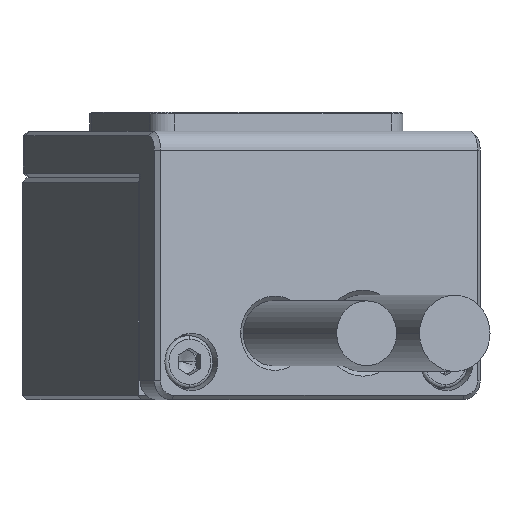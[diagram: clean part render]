
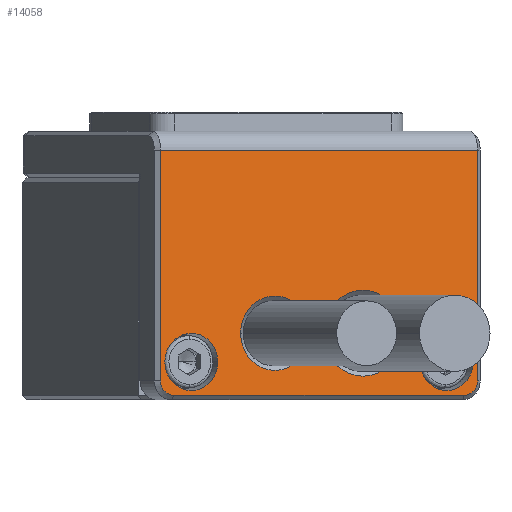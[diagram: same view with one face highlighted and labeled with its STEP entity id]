
A CAD part, front view. The second image highlights one B-rep face of the part: STEP entity #14058.
In plain terms, the highlighted planar face has unit normal (0.383, -0.924, 0).
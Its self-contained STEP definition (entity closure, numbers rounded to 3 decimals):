
#17 = DIRECTION ( 'NONE',  ( 0.924, 0.383, 0. ) ) ;
#50 = EDGE_CURVE ( 'NONE', #3986, #12272, #17562, .T. ) ;
#395 = CARTESIAN_POINT ( 'NONE',  ( 103.385, 10.441, 38.176 ) ) ;
#701 = DIRECTION ( 'NONE',  ( 0.924, 0.383, 0. ) ) ;
#782 = ORIENTED_EDGE ( 'NONE', *, *, #11749, .F. ) ;
#1046 = CARTESIAN_POINT ( 'NONE',  ( 88.975, 4.465, 41.176 ) ) ;
#1405 = LINE ( 'NONE', #5007, #18223 ) ;
#1423 = VERTEX_POINT ( 'NONE', #2273 ) ;
#1676 = CARTESIAN_POINT ( 'NONE',  ( 98.766, 8.525, 41.176 ) ) ;
#1719 = CARTESIAN_POINT ( 'NONE',  ( 79.368, 0.481, 38.176 ) ) ;
#1793 = AXIS2_PLACEMENT_3D ( 'NONE', #395, #11737, #13351 ) ;
#2011 = CARTESIAN_POINT ( 'NONE',  ( 106.618, 11.781, 36.176 ) ) ;
#2038 = ORIENTED_EDGE ( 'NONE', *, *, #10187, .F. ) ;
#2273 = CARTESIAN_POINT ( 'NONE',  ( 73.364, -2.008, 36.176 ) ) ;
#2369 = DIRECTION ( 'NONE',  ( 0.924, 0.383, 0. ) ) ;
#2451 = CARTESIAN_POINT ( 'NONE',  ( 106.618, 11.781, 60.376 ) ) ;
#2734 = DIRECTION ( 'NONE',  ( 0., 0., -1. ) ) ;
#2884 = CARTESIAN_POINT ( 'NONE',  ( 106.618, 11.781, 62.376 ) ) ;
#2940 = CARTESIAN_POINT ( 'NONE',  ( 76.597, -0.668, 38.176 ) ) ;
#2974 = AXIS2_PLACEMENT_3D ( 'NONE', #19975, #11799, #3706 ) ;
#3706 = DIRECTION ( 'NONE',  ( 0.924, 0.383, 0. ) ) ;
#3714 = CARTESIAN_POINT ( 'NONE',  ( 72.902, -2.2, 62.376 ) ) ;
#3880 = FACE_BOUND ( 'NONE', #12532, .T. ) ;
#3986 = VERTEX_POINT ( 'NONE', #14034 ) ;
#4069 = EDGE_CURVE ( 'NONE', #10000, #15515, #14457, .T. ) ;
#4198 = EDGE_CURVE ( 'NONE', #3986, #1423, #13678, .T. ) ;
#4199 = EDGE_CURVE ( 'NONE', #15515, #12068, #20064, .T. ) ;
#4459 = DIRECTION ( 'NONE',  ( -0.383, 0.924, 0. ) ) ;
#4501 = AXIS2_PLACEMENT_3D ( 'NONE', #9694, #12836, #21023 ) ;
#4657 = FACE_BOUND ( 'NONE', #12109, .T. ) ;
#4872 = ORIENTED_EDGE ( 'NONE', *, *, #10726, .F. ) ;
#4904 = ORIENTED_EDGE ( 'NONE', *, *, #8299, .F. ) ;
#5007 = CARTESIAN_POINT ( 'NONE',  ( 73.364, -2.008, 62.376 ) ) ;
#5009 = DIRECTION ( 'NONE',  ( -0.924, -0.383, 0. ) ) ;
#5023 = AXIS2_PLACEMENT_3D ( 'NONE', #3714, #13571, #18370 ) ;
#5819 = DIRECTION ( 'NONE',  ( -0.924, -0.383, 0. ) ) ;
#5883 = CARTESIAN_POINT ( 'NONE',  ( 72.902, -2.2, 60.376 ) ) ;
#6188 = FACE_BOUND ( 'NONE', #10829, .T. ) ;
#6265 = EDGE_CURVE ( 'NONE', #1423, #10000, #1405, .T. ) ;
#6535 = VERTEX_POINT ( 'NONE', #14041 ) ;
#6595 = AXIS2_PLACEMENT_3D ( 'NONE', #12121, #20327, #10596 ) ;
#6935 = CARTESIAN_POINT ( 'NONE',  ( 100.614, 9.292, 38.176 ) ) ;
#7243 = EDGE_CURVE ( 'NONE', #12006, #19253, #20472, .T. ) ;
#7406 = CIRCLE ( 'NONE', #4501, 3.9 ) ;
#7449 = CARTESIAN_POINT ( 'NONE',  ( 85.372, 2.971, 41.176 ) ) ;
#8141 = DIRECTION ( 'NONE',  ( 0.383, -0.924, 0. ) ) ;
#8176 = DIRECTION ( 'NONE',  ( 0.383, -0.924, 0. ) ) ;
#8299 = EDGE_CURVE ( 'NONE', #16517, #13621, #7406, .T. ) ;
#8560 = PLANE ( 'NONE',  #5023 ) ;
#8868 = DIRECTION ( 'NONE',  ( 0.383, -0.924, 0. ) ) ;
#9005 = VERTEX_POINT ( 'NONE', #6935 ) ;
#9150 = ORIENTED_EDGE ( 'NONE', *, *, #13456, .F. ) ;
#9258 = ORIENTED_EDGE ( 'NONE', *, *, #4069, .F. ) ;
#9647 = ORIENTED_EDGE ( 'NONE', *, *, #4199, .F. ) ;
#9694 = CARTESIAN_POINT ( 'NONE',  ( 85.372, 2.971, 41.176 ) ) ;
#10000 = VERTEX_POINT ( 'NONE', #14893 ) ;
#10019 = CARTESIAN_POINT ( 'NONE',  ( 90.453, 5.078, 41.176 ) ) ;
#10168 = VECTOR ( 'NONE', #2369, 1000. ) ;
#10187 = EDGE_CURVE ( 'NONE', #19253, #12006, #21045, .T. ) ;
#10411 = VECTOR ( 'NONE', #2734, 1000. ) ;
#10510 = FACE_BOUND ( 'NONE', #18511, .T. ) ;
#10596 = DIRECTION ( 'NONE',  ( 0.924, 0.383, 0. ) ) ;
#10726 = EDGE_CURVE ( 'NONE', #13621, #16517, #13895, .T. ) ;
#10759 = EDGE_CURVE ( 'NONE', #9005, #6535, #13143, .T. ) ;
#10829 = EDGE_LOOP ( 'NONE', ( #20023, #9150 ) ) ;
#11294 = AXIS2_PLACEMENT_3D ( 'NONE', #19012, #4459, #5009 ) ;
#11536 = DIRECTION ( 'NONE',  ( 0., 0., 1. ) ) ;
#11737 = DIRECTION ( 'NONE',  ( 0.383, -0.924, 0. ) ) ;
#11749 = EDGE_CURVE ( 'NONE', #12068, #12272, #15102, .T. ) ;
#11799 = DIRECTION ( 'NONE',  ( 0.383, -0.924, 0. ) ) ;
#11907 = CIRCLE ( 'NONE', #19916, 3. ) ;
#11995 = ORIENTED_EDGE ( 'NONE', *, *, #4198, .F. ) ;
#12006 = VERTEX_POINT ( 'NONE', #10019 ) ;
#12068 = VERTEX_POINT ( 'NONE', #2011 ) ;
#12109 = EDGE_LOOP ( 'NONE', ( #4904, #4872 ) ) ;
#12121 = CARTESIAN_POINT ( 'NONE',  ( 94.61, 6.802, 41.176 ) ) ;
#12155 = AXIS2_PLACEMENT_3D ( 'NONE', #15689, #18961, #5819 ) ;
#12272 = VERTEX_POINT ( 'NONE', #20723 ) ;
#12377 = DIRECTION ( 'NONE',  ( 0.383, -0.924, 0. ) ) ;
#12532 = EDGE_LOOP ( 'NONE', ( #16779, #19379 ) ) ;
#12836 = DIRECTION ( 'NONE',  ( 0.383, -0.924, 0. ) ) ;
#13054 = VERTEX_POINT ( 'NONE', #18412 ) ;
#13143 = CIRCLE ( 'NONE', #17196, 3. ) ;
#13157 = AXIS2_PLACEMENT_3D ( 'NONE', #17909, #8176, #17 ) ;
#13351 = DIRECTION ( 'NONE',  ( 0.924, 0.383, 0. ) ) ;
#13456 = EDGE_CURVE ( 'NONE', #13054, #19854, #20914, .T. ) ;
#13571 = DIRECTION ( 'NONE',  ( -0.383, 0.924, 0. ) ) ;
#13621 = VERTEX_POINT ( 'NONE', #17102 ) ;
#13678 = CIRCLE ( 'NONE', #11294, 1.5 ) ;
#13895 = CIRCLE ( 'NONE', #14189, 3.9 ) ;
#14034 = CARTESIAN_POINT ( 'NONE',  ( 74.749, -1.434, 34.676 ) ) ;
#14041 = CARTESIAN_POINT ( 'NONE',  ( 106.156, 11.59, 38.176 ) ) ;
#14058 = ADVANCED_FACE ( 'NONE', ( #10510, #4657, #6188, #3880, #15573 ), #8560, .F. ) ;
#14189 = AXIS2_PLACEMENT_3D ( 'NONE', #7449, #8868, #701 ) ;
#14457 = LINE ( 'NONE', #5883, #10168 ) ;
#14893 = CARTESIAN_POINT ( 'NONE',  ( 73.364, -2.008, 60.376 ) ) ;
#15102 = CIRCLE ( 'NONE', #12155, 1.5 ) ;
#15515 = VERTEX_POINT ( 'NONE', #2451 ) ;
#15573 = FACE_OUTER_BOUND ( 'NONE', #19744, .T. ) ;
#15689 = CARTESIAN_POINT ( 'NONE',  ( 105.232, 11.207, 36.176 ) ) ;
#16283 = VECTOR ( 'NONE', #19600, 1000. ) ;
#16360 = EDGE_CURVE ( 'NONE', #6535, #9005, #17790, .T. ) ;
#16517 = VERTEX_POINT ( 'NONE', #1046 ) ;
#16567 = ORIENTED_EDGE ( 'NONE', *, *, #6265, .F. ) ;
#16779 = ORIENTED_EDGE ( 'NONE', *, *, #16360, .F. ) ;
#17102 = CARTESIAN_POINT ( 'NONE',  ( 81.77, 1.477, 41.176 ) ) ;
#17196 = AXIS2_PLACEMENT_3D ( 'NONE', #18879, #12377, #20500 ) ;
#17454 = ORIENTED_EDGE ( 'NONE', *, *, #50, .T. ) ;
#17562 = LINE ( 'NONE', #17912, #16283 ) ;
#17790 = CIRCLE ( 'NONE', #1793, 3. ) ;
#17909 = CARTESIAN_POINT ( 'NONE',  ( 76.597, -0.668, 38.176 ) ) ;
#17912 = CARTESIAN_POINT ( 'NONE',  ( 74.749, -1.434, 34.676 ) ) ;
#18223 = VECTOR ( 'NONE', #11536, 1000. ) ;
#18370 = DIRECTION ( 'NONE',  ( -0.924, -0.383, 0. ) ) ;
#18412 = CARTESIAN_POINT ( 'NONE',  ( 73.826, -1.817, 38.176 ) ) ;
#18511 = EDGE_LOOP ( 'NONE', ( #2038, #18994 ) ) ;
#18879 = CARTESIAN_POINT ( 'NONE',  ( 103.385, 10.441, 38.176 ) ) ;
#18961 = DIRECTION ( 'NONE',  ( -0.383, 0.924, 0. ) ) ;
#18994 = ORIENTED_EDGE ( 'NONE', *, *, #7243, .F. ) ;
#19012 = CARTESIAN_POINT ( 'NONE',  ( 74.749, -1.434, 36.176 ) ) ;
#19253 = VERTEX_POINT ( 'NONE', #1676 ) ;
#19379 = ORIENTED_EDGE ( 'NONE', *, *, #10759, .F. ) ;
#19413 = DIRECTION ( 'NONE',  ( 0.924, 0.383, 0. ) ) ;
#19600 = DIRECTION ( 'NONE',  ( 0.924, 0.383, 0. ) ) ;
#19744 = EDGE_LOOP ( 'NONE', ( #9647, #9258, #16567, #11995, #17454, #782 ) ) ;
#19854 = VERTEX_POINT ( 'NONE', #1719 ) ;
#19916 = AXIS2_PLACEMENT_3D ( 'NONE', #2940, #8141, #19413 ) ;
#19975 = CARTESIAN_POINT ( 'NONE',  ( 94.61, 6.802, 41.176 ) ) ;
#20023 = ORIENTED_EDGE ( 'NONE', *, *, #21039, .F. ) ;
#20064 = LINE ( 'NONE', #2884, #10411 ) ;
#20327 = DIRECTION ( 'NONE',  ( 0.383, -0.924, 0. ) ) ;
#20472 = CIRCLE ( 'NONE', #2974, 4.5 ) ;
#20500 = DIRECTION ( 'NONE',  ( 0.924, 0.383, 0. ) ) ;
#20723 = CARTESIAN_POINT ( 'NONE',  ( 105.232, 11.207, 34.676 ) ) ;
#20914 = CIRCLE ( 'NONE', #13157, 3. ) ;
#21023 = DIRECTION ( 'NONE',  ( 0.924, 0.383, 0. ) ) ;
#21039 = EDGE_CURVE ( 'NONE', #19854, #13054, #11907, .T. ) ;
#21045 = CIRCLE ( 'NONE', #6595, 4.5 ) ;
